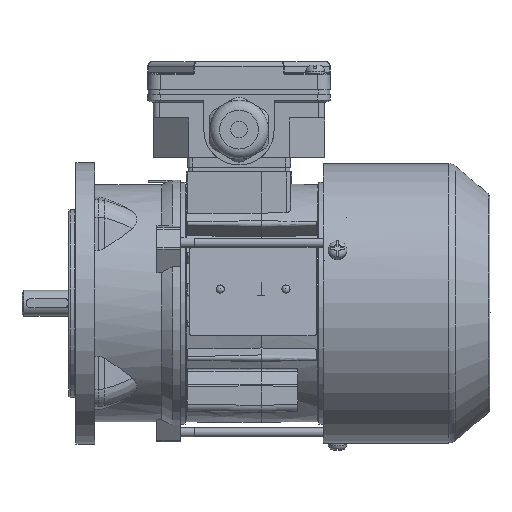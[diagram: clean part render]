
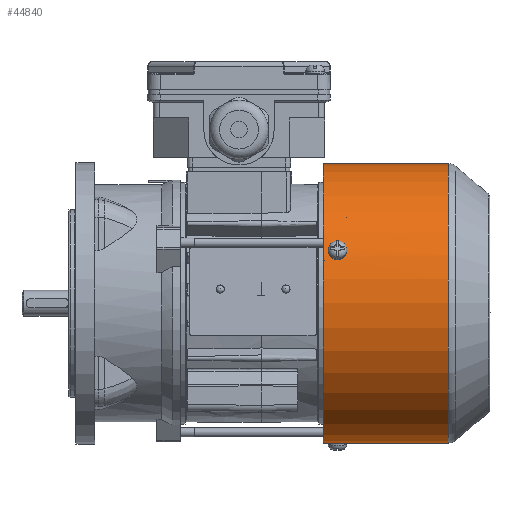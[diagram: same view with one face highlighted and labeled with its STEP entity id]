
A CAD part, front view. The second image highlights one B-rep face of the part: STEP entity #44840.
In plain terms, the highlighted cylindrical face has radius 59.6 mm (diameter 119.2 mm), a full revolution.
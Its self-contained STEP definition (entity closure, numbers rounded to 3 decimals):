
#860=B_SPLINE_CURVE_WITH_KNOTS('',3,(#67436,#67437,#67438,#67439,#67440,
#67441,#67442),.UNSPECIFIED.,.F.,.F.,(4,1,1,1,4),(0.,0.002,
0.004,0.006,0.008),
 .UNSPECIFIED.);
#862=B_SPLINE_CURVE_WITH_KNOTS('',3,(#67460,#67461,#67462,#67463,#67464,
#67465,#67466),.UNSPECIFIED.,.F.,.F.,(4,1,1,1,4),(0.,
0.002,0.004,0.006,0.008),
 .UNSPECIFIED.);
#864=B_SPLINE_CURVE_WITH_KNOTS('',3,(#67487,#67488,#67489,#67490,#67491,
#67492,#67493),.UNSPECIFIED.,.F.,.F.,(4,1,1,1,4),(0.,0.002,
0.004,0.006,0.008),
 .UNSPECIFIED.);
#866=B_SPLINE_CURVE_WITH_KNOTS('',3,(#67511,#67512,#67513,#67514,#67515,
#67516,#67517),.UNSPECIFIED.,.F.,.F.,(4,1,1,1,4),(0.,0.002,
0.004,0.006,0.008),
 .UNSPECIFIED.);
#867=B_SPLINE_CURVE_WITH_KNOTS('',3,(#67523,#67524,#67525,#67526,#67527,
#67528,#67529),.UNSPECIFIED.,.F.,.F.,(4,1,1,1,4),(0.,
0.002,0.004,0.006,0.007),
 .UNSPECIFIED.);
#868=B_SPLINE_CURVE_WITH_KNOTS('',3,(#67532,#67533,#67534,#67535,#67536,
#67537,#67538),.UNSPECIFIED.,.F.,.F.,(4,1,1,1,4),(0.,
0.002,0.004,0.006,0.007),
 .UNSPECIFIED.);
#2564=CIRCLE('',#46455,59.6);
#3169=CIRCLE('',#47698,59.6);
#3171=CIRCLE('',#47702,59.6);
#3172=CIRCLE('',#47704,59.6);
#3174=CIRCLE('',#47708,59.6);
#3176=CIRCLE('',#47713,59.6);
#10326=ORIENTED_EDGE('',*,*,#16640,.T.);
#10327=ORIENTED_EDGE('',*,*,#16637,.T.);
#10328=ORIENTED_EDGE('',*,*,#16645,.T.);
#10329=ORIENTED_EDGE('',*,*,#16643,.T.);
#10330=ORIENTED_EDGE('',*,*,#16646,.F.);
#10331=ORIENTED_EDGE('',*,*,#16647,.F.);
#10332=ORIENTED_EDGE('',*,*,#16627,.T.);
#10333=ORIENTED_EDGE('',*,*,#16624,.T.);
#10334=ORIENTED_EDGE('',*,*,#16632,.T.);
#10335=ORIENTED_EDGE('',*,*,#16630,.T.);
#10336=ORIENTED_EDGE('',*,*,#14865,.F.);
#10337=ORIENTED_EDGE('',*,*,#16633,.T.);
#14865=EDGE_CURVE('',#19131,#19131,#2564,.T.);
#16624=EDGE_CURVE('',#20327,#20330,#860,.T.);
#16627=EDGE_CURVE('',#20331,#20327,#3169,.F.);
#16630=EDGE_CURVE('',#20333,#20331,#862,.T.);
#16632=EDGE_CURVE('',#20330,#20333,#3171,.F.);
#16633=EDGE_CURVE('',#20335,#20335,#3172,.F.);
#16637=EDGE_CURVE('',#20336,#20339,#864,.T.);
#16640=EDGE_CURVE('',#20340,#20336,#3174,.F.);
#16643=EDGE_CURVE('',#20342,#20340,#866,.T.);
#16645=EDGE_CURVE('',#20339,#20342,#3176,.F.);
#16646=EDGE_CURVE('',#20344,#20345,#867,.T.);
#16647=EDGE_CURVE('',#20345,#20344,#868,.T.);
#19131=VERTEX_POINT('',#62876);
#20327=VERTEX_POINT('',#67424);
#20330=VERTEX_POINT('',#67435);
#20331=VERTEX_POINT('',#67445);
#20333=VERTEX_POINT('',#67451);
#20335=VERTEX_POINT('',#67472);
#20336=VERTEX_POINT('',#67475);
#20339=VERTEX_POINT('',#67486);
#20340=VERTEX_POINT('',#67496);
#20342=VERTEX_POINT('',#67502);
#20344=VERTEX_POINT('',#67530);
#20345=VERTEX_POINT('',#67531);
#27545=EDGE_LOOP('',(#10326,#10327,#10328,#10329));
#27546=EDGE_LOOP('',(#10330,#10331));
#27547=EDGE_LOOP('',(#10332,#10333,#10334,#10335));
#27548=EDGE_LOOP('',(#10336));
#27549=EDGE_LOOP('',(#10337));
#29725=FACE_BOUND('',#27545,.T.);
#29726=FACE_BOUND('',#27546,.T.);
#29727=FACE_BOUND('',#27547,.T.);
#29728=FACE_BOUND('',#27548,.T.);
#29729=FACE_BOUND('',#27549,.T.);
#30758=CYLINDRICAL_SURFACE('',#47714,59.6);
#44840=ADVANCED_FACE('',(#29725,#29726,#29727,#29728,#29729),#30758,.T.);
#46455=AXIS2_PLACEMENT_3D('',#62875,#51429,#51430);
#47698=AXIS2_PLACEMENT_3D('',#67448,#54904,#54905);
#47702=AXIS2_PLACEMENT_3D('',#67469,#54913,#54914);
#47704=AXIS2_PLACEMENT_3D('',#67471,#54917,#54918);
#47708=AXIS2_PLACEMENT_3D('',#67499,#54928,#54929);
#47713=AXIS2_PLACEMENT_3D('',#67521,#54939,#54940);
#47714=AXIS2_PLACEMENT_3D('',#67522,#54941,#54942);
#51429=DIRECTION('',(-1.,0.,0.));
#51430=DIRECTION('',(0.,0.,1.));
#54904=DIRECTION('',(-1.,0.,0.));
#54905=DIRECTION('',(0.,0.866,-0.5));
#54913=DIRECTION('',(1.,0.,0.));
#54914=DIRECTION('',(0.,-0.866,0.5));
#54917=DIRECTION('',(1.,0.,0.));
#54918=DIRECTION('',(0.,0.,-1.));
#54928=DIRECTION('',(-1.,0.,0.));
#54929=DIRECTION('',(0.,0.,1.));
#54939=DIRECTION('',(1.,0.,0.));
#54940=DIRECTION('',(0.,0.,-1.));
#54941=DIRECTION('',(-1.,0.,0.));
#54942=DIRECTION('',(0.,0.,1.));
#62875=CARTESIAN_POINT('',(26.5,0.,0.));
#62876=CARTESIAN_POINT('',(26.5,0.,59.6));
#67424=CARTESIAN_POINT('',(35.,46.437,37.36));
#67435=CARTESIAN_POINT('',(30.,46.437,37.36));
#67436=CARTESIAN_POINT('',(35.,46.437,37.36));
#67437=CARTESIAN_POINT('',(35.,46.023,37.874));
#67438=CARTESIAN_POINT('',(34.458,45.191,38.867));
#67439=CARTESIAN_POINT('',(32.502,44.648,39.479));
#67440=CARTESIAN_POINT('',(30.542,45.19,38.869));
#67441=CARTESIAN_POINT('',(30.,46.023,37.874));
#67442=CARTESIAN_POINT('',(30.,46.437,37.36));
#67445=CARTESIAN_POINT('',(35.,47.484,36.02));
#67448=CARTESIAN_POINT('',(35.,0.,0.));
#67451=CARTESIAN_POINT('',(30.,47.484,36.02));
#67460=CARTESIAN_POINT('',(30.,47.484,36.02));
#67461=CARTESIAN_POINT('',(30.,47.883,35.493));
#67462=CARTESIAN_POINT('',(30.542,48.645,34.446));
#67463=CARTESIAN_POINT('',(32.498,49.108,33.771));
#67464=CARTESIAN_POINT('',(34.458,48.646,34.444));
#67465=CARTESIAN_POINT('',(35.,47.883,35.493));
#67466=CARTESIAN_POINT('',(35.,47.484,36.02));
#67469=CARTESIAN_POINT('',(30.,0.,0.));
#67471=CARTESIAN_POINT('',(79.809,0.,0.));
#67472=CARTESIAN_POINT('',(79.809,0.,-59.6));
#67475=CARTESIAN_POINT('',(35.,-55.573,21.536));
#67486=CARTESIAN_POINT('',(30.,-55.573,21.536));
#67487=CARTESIAN_POINT('',(35.,-55.573,21.536));
#67488=CARTESIAN_POINT('',(35.,-55.812,20.92));
#67489=CARTESIAN_POINT('',(34.458,-56.255,19.703));
#67490=CARTESIAN_POINT('',(32.502,-56.514,18.927));
#67491=CARTESIAN_POINT('',(30.542,-56.256,19.701));
#67492=CARTESIAN_POINT('',(30.,-55.812,20.92));
#67493=CARTESIAN_POINT('',(30.,-55.573,21.536));
#67496=CARTESIAN_POINT('',(35.,-54.936,23.112));
#67499=CARTESIAN_POINT('',(35.,0.,0.));
#67502=CARTESIAN_POINT('',(30.,-54.936,23.112));
#67511=CARTESIAN_POINT('',(30.,-54.936,23.112));
#67512=CARTESIAN_POINT('',(30.,-54.68,23.721));
#67513=CARTESIAN_POINT('',(30.542,-54.154,24.905));
#67514=CARTESIAN_POINT('',(32.498,-53.8,25.643));
#67515=CARTESIAN_POINT('',(34.458,-54.153,24.907));
#67516=CARTESIAN_POINT('',(35.,-54.68,23.721));
#67517=CARTESIAN_POINT('',(35.,-54.936,23.112));
#67521=CARTESIAN_POINT('',(30.,0.,0.));
#67522=CARTESIAN_POINT('',(-33.5,0.,0.));
#67523=CARTESIAN_POINT('',(35.,8.295,-59.02));
#67524=CARTESIAN_POINT('',(34.937,7.681,-59.106));
#67525=CARTESIAN_POINT('',(34.356,6.499,-59.249));
#67526=CARTESIAN_POINT('',(32.502,5.777,-59.318));
#67527=CARTESIAN_POINT('',(30.649,6.493,-59.25));
#67528=CARTESIAN_POINT('',(30.063,7.681,-59.106));
#67529=CARTESIAN_POINT('',(30.,8.295,-59.02));
#67530=CARTESIAN_POINT('',(35.,8.295,-59.02));
#67531=CARTESIAN_POINT('',(30.,8.295,-59.02));
#67532=CARTESIAN_POINT('',(30.,8.295,-59.02));
#67533=CARTESIAN_POINT('',(30.063,8.908,-58.934));
#67534=CARTESIAN_POINT('',(30.644,10.084,-58.746));
#67535=CARTESIAN_POINT('',(32.498,10.797,-58.613));
#67536=CARTESIAN_POINT('',(34.351,10.09,-58.745));
#67537=CARTESIAN_POINT('',(34.937,8.908,-58.934));
#67538=CARTESIAN_POINT('',(35.,8.295,-59.02));
